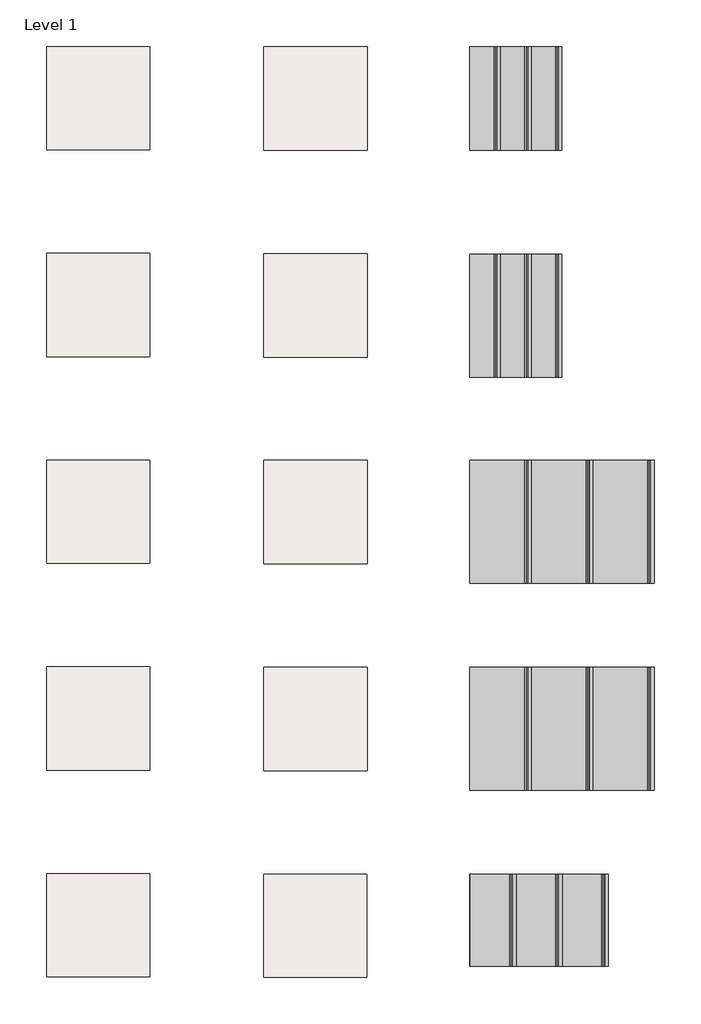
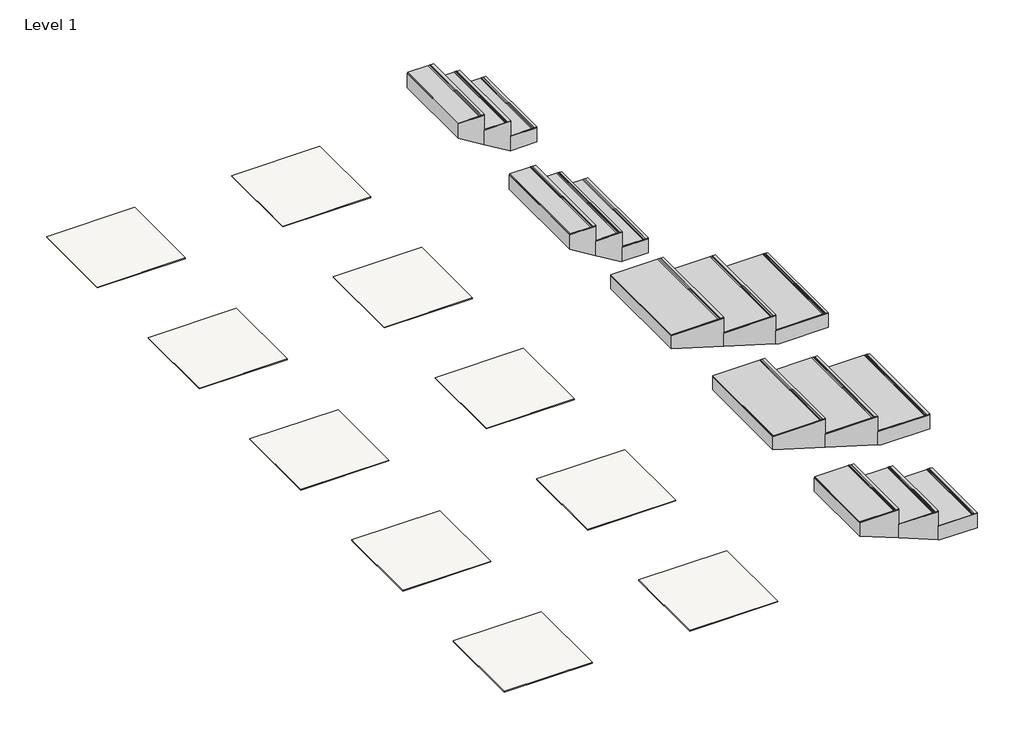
# One storey: 10 coverings, 5 stair flights.
"""IFC4 building model written with IfcOpenShell, lengths in millimetres."""

import ifcopenshell
import ifcopenshell.guid

model = None  # the IFC model being written
_history = None  # IfcOwnerHistory: only IFC2X3 demands one
_inside = {}  # id of a spatial element -> (the spatial element, [elements in it])
_under = {}  # id of a project, library or spatial element -> (it, [spatial elements below it])
_declared = {}  # id of a project -> (the project, [libraries it declares])
_typed = {}  # id of a type object -> (the type object, [elements of that type])
_made_of = {}  # id of a material, layer set ... -> (it, [elements and type objects made of it])


def new_model(schema):
    """Start an empty IFC model of exactly this schema.

    Asked for "IFC4X3", IfcOpenShell would pick the latest addendum, in which some entities
    have other attributes; the version numbers below select the first issue.
    IFC2X3 requires an IfcOwnerHistory on every rooted entity: one is made here for all.
    """
    global model, _history
    if schema == "IFC4X3":
        model = ifcopenshell.file(schema_version=(4, 3, 0, 0))
    else:
        model = ifcopenshell.file(schema=schema)
    _inside.clear()
    _under.clear()
    _declared.clear()
    _typed.clear()
    _made_of.clear()
    _history = None
    if model.schema == "IFC2X3":
        org = make("IfcOrganization", Name="unknown")
        user = make(
            "IfcPersonAndOrganization",
            ThePerson=make("IfcPerson", FamilyName="unknown"),
            TheOrganization=org,
        )
        app = make(
            "IfcApplication",
            ApplicationDeveloper=org,
            Version="unknown",
            ApplicationFullName="unknown",
            ApplicationIdentifier="unknown",
        )
        _history = make(
            "IfcOwnerHistory",
            OwningUser=user,
            OwningApplication=app,
            ChangeAction="ADDED",
            CreationDate=0,
        )
    return model


def make(cls, **values):
    """One entity of the class cls with the attributes given. An attribute that is None is left unset."""
    return model.create_entity(
        cls, **{name: value for name, value in values.items() if value is not None}
    )


def rooted(cls, **values):
    """An entity with a GlobalId (a new one), such as an element, a storey or a relation."""
    return make(cls, GlobalId=ifcopenshell.guid.new(), OwnerHistory=_history, **values)


def si_unit(unit_type, name, prefix=None):
    """IfcSIUnit, for example si_unit("LENGTHUNIT", "METRE", prefix="MILLI")."""
    return make("IfcSIUnit", UnitType=unit_type, Prefix=prefix, Name=name)


def assignment(units):
    """IfcUnitAssignment: the units of a project."""
    return None if units is None else make("IfcUnitAssignment", Units=units)


def point(xyz):
    """IfcCartesianPoint."""
    return None if xyz is None else make("IfcCartesianPoint", Coordinates=xyz)


def direction(xyz):
    """IfcDirection."""
    return None if xyz is None else make("IfcDirection", DirectionRatios=xyz)


def frame(location, z_axis=None, x_axis=None):
    """IfcAxis2Placement3D, a coordinate frame: its origin and axes. An axis left out is left unset."""
    return make(
        "IfcAxis2Placement3D",
        Location=point(location),
        Axis=direction(z_axis),
        RefDirection=direction(x_axis),
    )


def origin():
    """The frame at (0, 0, 0) with its axes left unset."""
    return frame((0.0, 0.0, 0.0))


def place(relative_to, where):
    """IfcLocalPlacement: puts the frame where relative to a parent placement (None: the world)."""
    return make(
        "IfcLocalPlacement", PlacementRelTo=relative_to, RelativePlacement=where
    )


def context(
    kind, dimensions, precision=None, world=None, true_north=None, identifier=None
):
    """IfcGeometricRepresentationContext, for example the 3D "Model" context."""
    return make(
        "IfcGeometricRepresentationContext",
        ContextIdentifier=identifier,
        ContextType=kind,
        CoordinateSpaceDimension=dimensions,
        Precision=precision,
        WorldCoordinateSystem=world,
        TrueNorth=true_north,
    )


def project(units=None, contexts=None):
    """IfcProject with its units and contexts."""
    return rooted(
        "IfcProject",
        Name="project",
        RepresentationContexts=contexts,
        UnitsInContext=assignment(units),
    )


def spatial(cls, under=None, at=None, **own):
    """A site, building, storey or space (cls), placed at a placement, below another one or the project."""
    s = rooted(cls, ObjectPlacement=at, **own)
    if under is not None:
        _under.setdefault(under.id(), (under, []))[1].append(s)
    return s


def polyline(points):
    """IfcPolyline through the points."""
    return make("IfcPolyline", Points=[point(p) for p in points])


def outline(outer, holes=None, kind="AREA"):
    """IfcArbitraryClosedProfileDef: a profile drawn as a closed curve; with holes, ...WithVoids."""
    if holes is None:
        return make("IfcArbitraryClosedProfileDef", ProfileType=kind, OuterCurve=outer)
    return make(
        "IfcArbitraryProfileDefWithVoids",
        ProfileType=kind,
        OuterCurve=outer,
        InnerCurves=holes,
    )


def extrude(swept, where, along, depth):
    """IfcExtrudedAreaSolid: the profile swept, set in the frame where, extruded along a direction by depth."""
    return make(
        "IfcExtrudedAreaSolid",
        SweptArea=swept,
        Position=where,
        ExtrudedDirection=direction(along),
        Depth=depth,
    )


def faces_of(points, faces, orient=None, outer=None):
    """IfcFace entities. A face is a list of loops; a loop is a list of indices into points, from 0.

    orient and outer hold one flag for each loop. By default every Orientation is true, the
    first loop of a face is its IfcFaceOuterBound and the others are IfcFaceBound.
    """
    made = []
    for i, loops in enumerate(faces):
        bounds = []
        for j, loop in enumerate(loops):
            is_outer = j == 0 if outer is None else outer[i][j]
            bounds.append(
                make(
                    "IfcFaceOuterBound" if is_outer else "IfcFaceBound",
                    Bound=make("IfcPolyLoop", Polygon=[points[k] for k in loop]),
                    Orientation=True if orient is None else orient[i][j],
                )
            )
        made.append(make("IfcFace", Bounds=bounds))
    return made


def faceted_brep(points, faces, orient=None, outer=None, voids=None):
    """IfcFacetedBrep: a solid bounded by flat faces; with voids (closed shells), ...WithVoids."""
    shared = [point(p) for p in points]
    hull = make("IfcClosedShell", CfsFaces=faces_of(shared, faces, orient, outer))
    if voids is None:
        return make("IfcFacetedBrep", Outer=hull)
    return make(
        "IfcFacetedBrepWithVoids",
        Outer=hull,
        Voids=[
            make(cls, CfsFaces=faces_of(shared, fs, o, b)) for cls, fs, o, b in voids
        ],
    )


def shape(context_of_items, identifier, shape_type, items):
    """IfcShapeRepresentation: the items that make up one representation, for example the "Body"."""
    return make(
        "IfcShapeRepresentation",
        ContextOfItems=context_of_items,
        RepresentationIdentifier=identifier,
        RepresentationType=shape_type,
        Items=items,
    )


def made_of(thing, what):
    """Note that an element or type object is made of a material, layer set ...; save() writes the relation."""
    if what is not None:
        _made_of.setdefault(what.id(), (what, []))[1].append(thing)
    return thing


def element(
    cls,
    number,
    at=None,
    inside=None,
    cuts=None,
    type_object=None,
    material=None,
    context=None,
    identifier="Body",
    shape_type=None,
    held_by="IfcProductDefinitionShape",
    body=None,
    shapes=None,
    **own,
):
    """One element of the class cls, such as IfcWall. Its Tag is "e" and its number.

    at: its placement. inside: the storey or other place that contains it. cuts: it is an
    opening in that element (IfcRelVoidsElement). A single representation is given by context,
    identifier, shape_type and body (its items); several are given by shapes. held_by: the class
    of the entity that holds the representations. save() writes the other relations.
    """
    e = rooted(cls, Tag="e%d" % number, ObjectPlacement=at, **own)
    if body is not None:
        shapes = [shape(context, identifier, shape_type, body)]
    if shapes is not None:
        e.Representation = make(held_by, Representations=shapes)
    if inside is not None:
        _inside.setdefault(inside.id(), (inside, []))[1].append(e)
    if cuts is not None:
        rooted(
            "IfcRelVoidsElement", RelatingBuildingElement=cuts, RelatedOpeningElement=e
        )
    if type_object is not None:
        _typed.setdefault(type_object.id(), (type_object, []))[1].append(e)
    return made_of(e, material)


def aggregate(whole, parts):
    """IfcRelAggregates: a whole, such as a stair, and the parts it consists of."""
    return rooted("IfcRelAggregates", RelatingObject=whole, RelatedObjects=parts)


def save(model, path):
    """Write the relations noted so far, then the file.

    IfcRelAggregates (storeys below a building ...), IfcRelContainedInSpatialStructure (elements
    in a storey), IfcRelDefinesByType, IfcRelAssociatesMaterial and IfcRelDeclares: one each for
    every whole, place, type object, material and project.
    """
    for whole, parts in _under.values():
        aggregate(whole, parts)
    for where, things in _inside.values():
        rooted(
            "IfcRelContainedInSpatialStructure",
            RelatedElements=things,
            RelatingStructure=where,
        )
    for kind, things in _typed.values():
        rooted("IfcRelDefinesByType", RelatedObjects=things, RelatingType=kind)
    for what, things in _made_of.values():
        rooted("IfcRelAssociatesMaterial", RelatedObjects=things, RelatingMaterial=what)
    for by, libraries in _declared.values():
        rooted("IfcRelDeclares", RelatingContext=by, RelatedDefinitions=libraries)
    model.write(path)


model = new_model("IFC4")

# Units and contexts
model_context = context("Model", 3, world=origin())
ifc_project = project(units=[si_unit("LENGTHUNIT", "METRE", prefix="MILLI")], contexts=[model_context])

# Site, building, storey
site = spatial("IfcSite", under=ifc_project)
building = spatial("IfcBuilding", under=site)
storey = spatial("IfcBuildingStorey", under=building, Name="Level 1", Elevation=0.0)

# Coverings
placement = place(None, origin())
element("IfcCovering", 1, ObjectType="REVIGRÉS-STATUARIO WHITE-DG-29,5x59,2-MATT RECT-WHITE", at=placement, inside=storey, context=model_context, shape_type="SweptSolid", body=[
    extrude(outline(polyline([(77840.9341098, 18731.1346775), (76840.9341098, 18731.1346775), (76840.9341098, 19731.1346775), (77840.9341098, 19731.1346775), (77840.9341098, 18731.1346775)])), frame((0.0, 0.0, -9.8), z_axis=(0.0, 0.0, 1.0), x_axis=(1.0, 0.0, 0.0)), (0.0, 0.0, 1.0), 9.8),
])
element("IfcCovering", 2, ObjectType="REVIGRÉS-STATUARIO WHITE-DG-29,5x59,2-POL-WHITE", at=placement, inside=storey, context=model_context, shape_type="SweptSolid", body=[
    extrude(outline(polyline([(79941.0591098, 18727.0096775), (78940.8091098, 18727.0096775), (78940.8091098, 19727.0096775), (79941.0591098, 19727.0096775), (79941.0591098, 18727.0096775)])), frame((0.0, 0.0, -9.8), z_axis=(0.0, 0.0, 1.0), x_axis=(1.0, 0.0, 0.0)), (0.0, 0.0, 1.0), 9.8),
])
element("IfcCovering", 3, ObjectType="REVIGRÉS-STATUARIO WHITE-DG-59,2x59,2-MATT RECT-WHITE", at=placement, inside=storey, context=model_context, shape_type="SweptSolid", body=[
    extrude(outline(polyline([(77840.9341098, 14731.1346775), (76840.9341098, 14731.1346775), (76840.9341098, 15731.1346775), (77840.9341098, 15731.1346775), (77840.9341098, 14731.1346775)])), frame((0.0, 0.0, -9.8), z_axis=(0.0, 0.0, 1.0), x_axis=(1.0, 0.0, 0.0)), (0.0, 0.0, 1.0), 9.8),
])
element("IfcCovering", 4, ObjectType="REVIGRÉS-STATUARIO WHITE-DG-59,2x59,2-POL-WHITE", at=placement, inside=storey, context=model_context, shape_type="SweptSolid", body=[
    extrude(outline(polyline([(79941.0591098, 14727.0096775), (78940.8091098, 14727.0096775), (78940.8091098, 15727.0096775), (79941.0591098, 15727.0096775), (79941.0591098, 14727.0096775)])), frame((0.0, 0.0, -9.8), z_axis=(0.0, 0.0, 1.0), x_axis=(1.0, 0.0, 0.0)), (0.0, 0.0, 1.0), 9.8),
])
element("IfcCovering", 5, ObjectType="REVIGRÉS-STATUARIO WHITE-DG-59,2x118,6-MATT RECT-WHITE", at=placement, inside=storey, context=model_context, shape_type="SweptSolid", body=[
    extrude(outline(polyline([(77840.9341098, 12731.1346775), (76840.9341098, 12731.1346775), (76840.9341098, 13731.1346775), (77840.9341098, 13731.1346775), (77840.9341098, 12731.1346775)])), frame((0.0, 0.0, -9.8), z_axis=(0.0, 0.0, 1.0), x_axis=(1.0, 0.0, 0.0)), (0.0, 0.0, 1.0), 9.8),
])
element("IfcCovering", 6, ObjectType="REVIGRÉS-STATUARIO WHITE-DG-59,2x118,6-POL-WHITE", at=placement, inside=storey, context=model_context, shape_type="SweptSolid", body=[
    extrude(outline(polyline([(79940.7341098, 12726.6846775), (78941.1341098, 12726.6846775), (78941.1341098, 13726.6846775), (79940.7341098, 13726.6846775), (79940.7341098, 12726.6846775)])), frame((0.0, 0.0, -9.8), z_axis=(0.0, 0.0, 1.0), x_axis=(1.0, 0.0, 0.0)), (0.0, 0.0, 1.0), 9.8),
])
element("IfcCovering", 7, ObjectType="REVIGRÉS-STATUARIO WHITE-DG-44,35x88,9-MATT RECT-WHITE", at=placement, inside=storey, context=model_context, shape_type="SweptSolid", body=[
    extrude(outline(polyline([(77840.9341098, 10731.1346775), (76840.9341098, 10731.1346775), (76840.9341098, 11731.1346775), (77840.9341098, 11731.1346775), (77840.9341098, 10731.1346775)])), frame((0.0, 0.0, -10.5), z_axis=(0.0, 0.0, 1.0), x_axis=(1.0, 0.0, 0.0)), (0.0, 0.0, 1.0), 10.5),
])
element("IfcCovering", 8, ObjectType="REVIGRÉS-STATUARIO WHITE-DG-44,35x88,9-POL-WHITE", at=placement, inside=storey, context=model_context, shape_type="SweptSolid", body=[
    extrude(outline(polyline([(79940.6091098, 10726.5596775), (78941.2591098, 10726.5596775), (78941.2591098, 11726.5596775), (79940.6091098, 11726.5596775), (79940.6091098, 10726.5596775)])), frame((0.0, 0.0, -10.5), z_axis=(0.0, 0.0, 1.0), x_axis=(1.0, 0.0, 0.0)), (0.0, 0.0, 1.0), 10.5),
])
element("IfcCovering", 9, ObjectType="REVIGRÉS-STATUARIO WHITE-DG-29,5x118,6-MATT RECT-WHITE", at=placement, inside=storey, context=model_context, shape_type="SweptSolid", body=[
    extrude(outline(polyline([(77840.9341098, 16731.1346775), (76840.9341098, 16731.1346775), (76840.9341098, 17731.1346775), (77840.9341098, 17731.1346775), (77840.9341098, 16731.1346775)])), frame((0.0, 0.0, -9.8), z_axis=(0.0, 0.0, 1.0), x_axis=(1.0, 0.0, 0.0)), (0.0, 0.0, 1.0), 9.8),
])
element("IfcCovering", 10, ObjectType="REVIGRÉS-STATUARIO WHITE-DG-29,5x118,6-POL-WHITE", at=placement, inside=storey, context=model_context, shape_type="SweptSolid", body=[
    extrude(outline(polyline([(79941.0591098, 16727.0096775), (78940.8091098, 16727.0096775), (78940.8091098, 17727.0096775), (79941.0591098, 17727.0096775), (79941.0591098, 16727.0096775)])), frame((0.0, 0.0, -9.8), z_axis=(0.0, 0.0, 1.0), x_axis=(1.0, 0.0, 0.0)), (0.0, 0.0, 1.0), 9.8),
])

# Stair flights
element("IfcStairFlight", 11, ObjectType="REVIGRÉS-STATUARIO WHITE-DG-29,5X59,2", at=placement, inside=storey, context=model_context, shape_type="SolidModel", body=[
    faceted_brep([(81528.9341098, 18727.0096775, 169.4941176), (81825.9341098, 18727.0096775, 169.4941176), (81825.9341098, 19727.0096775, 169.4941176), (81528.9341098, 19727.0096775, 169.4941176), (81528.9341098, 18727.0096775, 0.0), (81825.9341098, 18727.0096775, 0.0), (81825.9341099, 19727.0096775, 0.0), (81528.9341098, 19727.0096775, 0.0), (81231.9341098, 18727.0096775, 348.7882353), (81528.9341098, 18727.0096775, 348.7882353), (81528.9341098, 19727.0096775, 348.7882353), (81231.9341098, 19727.0096775, 348.7882353), (81231.9341098, 18727.0096775, 173.5747353), (81519.4599755, 18727.0096775, 0.0), (81519.4599755, 19727.0096775, 0.0), (81231.9341098, 19727.0096775, 173.5747353), (80934.9341098, 18727.0096775, 528.0823529), (81231.9341098, 18727.0096775, 528.0823529), (81231.9341098, 19727.0096775, 528.0823529), (80934.9341098, 19727.0096775, 528.0823529), (80934.9341098, 18727.0096775, 352.8688529), (80934.9341098, 19727.0096775, 352.8688529)], [[[0, 1, 2, 3]], [[1, 0, 4, 5]], [[2, 1, 5, 6]], [[3, 2, 6, 7]], [[8, 9, 10, 11]], [[4, 0, 9, 8, 12, 13]], [[0, 3, 10, 9]], [[3, 7, 14, 15, 11, 10]], [[16, 17, 18, 19]], [[17, 16, 20, 12, 8]], [[8, 11, 18, 17]], [[19, 18, 11, 15, 21]], [[16, 19, 21, 20]], [[5, 4, 13, 14, 7, 6]], [[14, 13, 12, 20, 21, 15]]]),
    extrude(outline(polyline([(179.2941176, 81795.9341098), (178.2941176, 81795.9341098), (178.2941176, 81790.9341098), (179.2941176, 81790.9341098), (179.2941176, 81780.9341098), (178.2941176, 81780.9341098), (178.2941176, 81775.9341098), (179.2941176, 81775.9341098), (179.2941176, 81765.9341098), (178.2941176, 81765.9341098), (178.2941176, 81760.9341098), (179.2941176, 81760.9341098), (179.2941176, 81530.9341098), (170.7941176, 81530.9341098), (170.7941176, 81825.9341098), (179.2941176, 81825.9341098), (179.2941176, 81795.9341098)])), frame((0.0, 18727.0096775, 0.0), z_axis=(0.0, 1.0, 0.0), x_axis=(0.0, 0.0, 1.0)), (0.0, 0.0, 1.0), 1000.0),
    extrude(outline(polyline([(358.5882353, 81498.9341098), (357.5882353, 81498.9341098), (357.5882353, 81493.9341098), (358.5882353, 81493.9341098), (358.5882353, 81483.9341098), (357.5882353, 81483.9341098), (357.5882353, 81478.9341098), (358.5882353, 81478.9341098), (358.5882353, 81468.9341098), (357.5882353, 81468.9341098), (357.5882353, 81463.9341098), (358.5882353, 81463.9341098), (358.5882353, 81233.9341098), (350.0882353, 81233.9341098), (350.0882353, 81528.9341098), (358.5882353, 81528.9341098), (358.5882353, 81498.9341098)])), frame((0.0, 18727.0096775, 0.0), z_axis=(0.0, 1.0, 0.0), x_axis=(0.0, 0.0, 1.0)), (0.0, 0.0, 1.0), 1000.0),
    extrude(outline(polyline([(537.8823529, 81201.9341098), (536.8823529, 81201.9341098), (536.8823529, 81196.9341098), (537.8823529, 81196.9341098), (537.8823529, 81186.9341098), (536.8823529, 81186.9341098), (536.8823529, 81181.9341098), (537.8823529, 81181.9341098), (537.8823529, 81171.9341098), (536.8823529, 81171.9341098), (536.8823529, 81166.9341098), (537.8823529, 81166.9341098), (537.8823529, 80936.9341098), (529.3823529, 80936.9341098), (529.3823529, 81231.9341098), (537.8823529, 81231.9341098), (537.8823529, 81201.9341098)])), frame((0.0, 18727.0096775, 0.0), z_axis=(0.0, 1.0, 0.0), x_axis=(0.0, 0.0, 1.0)), (0.0, 0.0, 1.0), 1000.0),
])
element("IfcStairFlight", 12, ObjectType="REVIGRÉS-STATUARIO WHITE-DG-29,5X118,6", at=placement, inside=storey, context=model_context, shape_type="SolidModel", body=[
    faceted_brep([(81528.9341098, 16533.0096775, 169.4941176), (81825.9341098, 16533.0096775, 169.4941176), (81825.9341099, 17721.0096775, 169.4941176), (81528.9341098, 17721.0096775, 169.4941176), (81528.9341098, 16533.0096775, 0.0), (81825.9341098, 16533.0096775, 0.0), (81825.9341098, 17721.0096775, 0.0), (81528.9341098, 17721.0096775, 0.0), (81231.9341098, 16533.0096775, 348.7882353), (81528.9341098, 16533.0096775, 348.7882353), (81528.9341098, 17721.0096775, 348.7882353), (81231.9341098, 17721.0096775, 348.7882353), (81231.9341098, 16533.0096775, 173.5747353), (81519.4599755, 16533.0096775, 0.0), (81519.4599755, 17721.0096775, 0.0), (81231.9341098, 17721.0096775, 173.5747353), (80934.9341098, 16533.0096775, 528.0823529), (81231.9341098, 16533.0096775, 528.0823529), (81231.9341098, 17721.0096775, 528.0823529), (80934.9341098, 17721.0096775, 528.0823529), (80934.9341098, 16533.0096775, 352.8688529), (80934.9341098, 17721.0096775, 352.8688529)], [[[0, 1, 2, 3]], [[1, 0, 4, 5]], [[2, 1, 5, 6]], [[3, 2, 6, 7]], [[8, 9, 10, 11]], [[4, 0, 9, 8, 12, 13]], [[0, 3, 10, 9]], [[3, 7, 14, 15, 11, 10]], [[16, 17, 18, 19]], [[17, 16, 20, 12, 8]], [[8, 11, 18, 17]], [[19, 18, 11, 15, 21]], [[16, 19, 21, 20]], [[5, 4, 13, 14, 7, 6]], [[14, 13, 12, 20, 21, 15]]]),
    extrude(outline(polyline([(179.2941176, 81795.9341098), (178.2941176, 81795.9341098), (178.2941176, 81790.9341098), (179.2941176, 81790.9341098), (179.2941176, 81780.9341098), (178.2941176, 81780.9341098), (178.2941176, 81775.9341098), (179.2941176, 81775.9341098), (179.2941176, 81765.9341098), (178.2941176, 81765.9341098), (178.2941176, 81760.9341098), (179.2941176, 81760.9341098), (179.2941176, 81530.9341098), (169.4941176, 81530.9341098), (169.4941176, 81825.9341098), (179.2941176, 81825.9341098), (179.2941176, 81795.9341098)])), frame((0.0, 16533.0096775, 0.0), z_axis=(0.0, 1.0, 0.0), x_axis=(0.0, 0.0, 1.0)), (0.0, 0.0, 1.0), 1188.0),
    extrude(outline(polyline([(358.5882353, 81498.9341098), (357.5882353, 81498.9341098), (357.5882353, 81493.9341098), (358.5882353, 81493.9341098), (358.5882353, 81483.9341098), (357.5882353, 81483.9341098), (357.5882353, 81478.9341098), (358.5882353, 81478.9341098), (358.5882353, 81468.9341098), (357.5882353, 81468.9341098), (357.5882353, 81463.9341098), (358.5882353, 81463.9341098), (358.5882353, 81233.9341098), (348.7882353, 81233.9341098), (348.7882353, 81528.9341098), (358.5882353, 81528.9341098), (358.5882353, 81498.9341098)])), frame((0.0, 16533.0096775, 0.0), z_axis=(0.0, 1.0, 0.0), x_axis=(0.0, 0.0, 1.0)), (0.0, 0.0, 1.0), 1188.0),
    extrude(outline(polyline([(537.8823529, 81201.9341098), (536.8823529, 81201.9341098), (536.8823529, 81196.9341098), (537.8823529, 81196.9341098), (537.8823529, 81186.9341098), (536.8823529, 81186.9341098), (536.8823529, 81181.9341098), (537.8823529, 81181.9341098), (537.8823529, 81171.9341098), (536.8823529, 81171.9341098), (536.8823529, 81166.9341098), (537.8823529, 81166.9341098), (537.8823529, 80936.9341098), (528.0823529, 80936.9341098), (528.0823529, 81231.9341098), (537.8823529, 81231.9341098), (537.8823529, 81201.9341098)])), frame((0.0, 16533.0096775, 0.0), z_axis=(0.0, 1.0, 0.0), x_axis=(0.0, 0.0, 1.0)), (0.0, 0.0, 1.0), 1188.0),
])
element("IfcStairFlight", 13, ObjectType="REVIGRÉS-STATUARIO WHITE-DG-44.35X88.9", at=placement, inside=storey, context=model_context, shape_type="SolidModel", body=[
    faceted_brep([(81827.4341098, 10835.5596775, 169.4941176), (82272.9341098, 10835.5596775, 169.4941176), (82272.9341098, 11726.5596775, 169.4941176), (81827.4341098, 11726.5596775, 169.4941176), (81827.4341098, 10835.5596775, 7.8019951), (81846.8200712, 10835.5596775, 0.0), (82272.9341098, 10835.5596775, 0.0), (82272.9341098, 11726.5596775, 0.0), (81846.8200712, 11726.5596775, 0.0), (81827.4341098, 11726.5596775, 7.8019951), (81381.9341098, 10835.5596775, 348.7882353), (81827.4341098, 10835.5596775, 348.7882353), (81827.4341098, 11726.5596775, 348.7882353), (81381.9341098, 11726.5596775, 348.7882353), (81381.9341098, 10835.5596775, 187.0961128), (81381.9341098, 11726.5596775, 187.0961128), (80936.4341098, 10835.5596775, 528.0823529), (81381.9341098, 10835.5596775, 528.0823529), (81381.9341098, 11726.5596775, 528.0823529), (80936.4341098, 11726.5596775, 528.0823529), (80936.4341098, 10835.5596775, 366.3902304), (80936.4341098, 11726.5596775, 366.3902304)], [[[0, 1, 2, 3]], [[1, 0, 4, 5, 6]], [[2, 1, 6, 7]], [[3, 2, 7, 8, 9]], [[10, 11, 12, 13]], [[11, 10, 14, 4, 0]], [[0, 3, 12, 11]], [[13, 12, 3, 9, 15]], [[16, 17, 18, 19]], [[17, 16, 20, 14, 10]], [[10, 13, 18, 17]], [[19, 18, 13, 15, 21]], [[16, 19, 21, 20]], [[7, 6, 5, 8]], [[8, 5, 4, 14, 20, 21, 15, 9]]]),
    extrude(outline(polyline([(179.2941176, 82242.9341098), (178.2941176, 82242.9341098), (178.2941176, 82237.9341098), (179.2941176, 82237.9341098), (179.2941176, 82227.9341098), (178.2941176, 82227.9341098), (178.2941176, 82222.9341098), (179.2941176, 82222.9341098), (179.2941176, 82212.9341098), (178.2941176, 82212.9341098), (178.2941176, 82207.9341098), (179.2941176, 82207.9341098), (179.2941176, 81829.4341098), (168.7941176, 81829.4341098), (168.7941176, 82272.9341098), (179.2941176, 82272.9341098), (179.2941176, 82242.9341098)])), frame((0.0, 10835.5596775, 0.0), z_axis=(0.0, 1.0, 0.0), x_axis=(0.0, 0.0, 1.0)), (0.0, 0.0, 1.0), 891.0),
    extrude(outline(polyline([(358.5882353, 81797.4341098), (357.5882353, 81797.4341098), (357.5882353, 81792.4341098), (358.5882353, 81792.4341098), (358.5882353, 81782.4341098), (357.5882353, 81782.4341098), (357.5882353, 81777.4341098), (358.5882353, 81777.4341098), (358.5882353, 81767.4341098), (357.5882353, 81767.4341098), (357.5882353, 81762.4341098), (358.5882353, 81762.4341098), (358.5882353, 81383.9341098), (348.0882353, 81383.9341098), (348.0882353, 81827.4341098), (358.5882353, 81827.4341098), (358.5882353, 81797.4341098)])), frame((0.0, 10835.5596775, 0.0), z_axis=(0.0, 1.0, 0.0), x_axis=(0.0, 0.0, 1.0)), (0.0, 0.0, 1.0), 891.0),
    extrude(outline(polyline([(537.8823529, 81351.9341098), (536.8823529, 81351.9341098), (536.8823529, 81346.9341098), (537.8823529, 81346.9341098), (537.8823529, 81336.9341098), (536.8823529, 81336.9341098), (536.8823529, 81331.9341098), (537.8823529, 81331.9341098), (537.8823529, 81321.9341098), (536.8823529, 81321.9341098), (536.8823529, 81316.9341098), (537.8823529, 81316.9341098), (537.8823529, 80938.4341098), (527.3823529, 80938.4341098), (527.3823529, 81381.9341098), (537.8823529, 81381.9341098), (537.8823529, 81351.9341098)])), frame((0.0, 10835.5596775, 0.0), z_axis=(0.0, 1.0, 0.0), x_axis=(0.0, 0.0, 1.0)), (0.0, 0.0, 1.0), 891.0),
])
element("IfcStairFlight", 14, ObjectType="REVIGRÉS-STATUARIO WHITE-DG-59,2X59,2", at=placement, inside=storey, context=model_context, shape_type="SolidModel", body=[
    faceted_brep([(82122.9341098, 14539.0096775, 168.7941176), (82716.9341098, 14539.0096775, 168.7941176), (82716.9341098, 15727.0096775, 168.7941176), (82122.9341098, 15727.0096775, 168.7941176), (82122.9341098, 14539.0096775, 12.1099045), (82163.0541281, 14539.0096775, 0.0), (82716.9341098, 14539.0096775, 0.0), (82716.9341098, 15727.0096775, 0.0), (82163.0541281, 15727.0096775, 0.0), (82122.9341098, 15727.0096775, 12.1099045), (81528.9341098, 14539.0096775, 348.0882353), (82122.9341098, 14539.0096775, 348.0882353), (82122.9341098, 15727.0096775, 348.0882353), (81528.9341098, 15727.0096775, 348.0882353), (81528.9341098, 14539.0096775, 191.4040222), (81528.9341098, 15727.0096775, 191.4040222), (80934.9341098, 14539.0096775, 527.3823529), (81528.9341098, 14539.0096775, 527.3823529), (81528.9341098, 15727.0096775, 527.3823529), (80934.9341098, 15727.0096775, 527.3823529), (80934.9341098, 14539.0096775, 370.6981398), (80934.9341098, 15727.0096775, 370.6981398)], [[[0, 1, 2, 3]], [[1, 0, 4, 5, 6]], [[2, 1, 6, 7]], [[3, 2, 7, 8, 9]], [[10, 11, 12, 13]], [[11, 10, 14, 4, 0]], [[0, 3, 12, 11]], [[13, 12, 3, 9, 15]], [[16, 17, 18, 19]], [[17, 16, 20, 14, 10]], [[10, 13, 18, 17]], [[19, 18, 13, 15, 21]], [[16, 19, 21, 20]], [[7, 6, 5, 8]], [[8, 5, 4, 14, 20, 21, 15, 9]]]),
    extrude(outline(polyline([(179.2941176, 82686.9341098), (178.2941176, 82686.9341098), (178.2941176, 82681.9341098), (179.2941176, 82681.9341098), (179.2941176, 82671.9341098), (178.2941176, 82671.9341098), (178.2941176, 82666.9341098), (179.2941176, 82666.9341098), (179.2941176, 82656.9341098), (178.2941176, 82656.9341098), (178.2941176, 82651.9341098), (179.2941176, 82651.9341098), (179.2941176, 82124.9341098), (168.7941176, 82124.9341098), (168.7941176, 82716.9341098), (179.2941176, 82716.9341098), (179.2941176, 82686.9341098)])), frame((0.0, 14539.0096775, 0.0), z_axis=(0.0, 1.0, 0.0), x_axis=(0.0, 0.0, 1.0)), (0.0, 0.0, 1.0), 1188.0),
    extrude(outline(polyline([(358.5882353, 82092.9341098), (357.5882353, 82092.9341098), (357.5882353, 82087.9341098), (358.5882353, 82087.9341098), (358.5882353, 82077.9341098), (357.5882353, 82077.9341098), (357.5882353, 82072.9341098), (358.5882353, 82072.9341098), (358.5882353, 82062.9341098), (357.5882353, 82062.9341098), (357.5882353, 82057.9341098), (358.5882353, 82057.9341098), (358.5882353, 81530.9341098), (348.0882353, 81530.9341098), (348.0882353, 82122.9341098), (358.5882353, 82122.9341098), (358.5882353, 82092.9341098)])), frame((0.0, 14539.0096775, 0.0), z_axis=(0.0, 1.0, 0.0), x_axis=(0.0, 0.0, 1.0)), (0.0, 0.0, 1.0), 1188.0),
    extrude(outline(polyline([(537.8823529, 81498.9341098), (536.8823529, 81498.9341098), (536.8823529, 81493.9341098), (537.8823529, 81493.9341098), (537.8823529, 81483.9341098), (536.8823529, 81483.9341098), (536.8823529, 81478.9341098), (537.8823529, 81478.9341098), (537.8823529, 81468.9341098), (536.8823529, 81468.9341098), (536.8823529, 81463.9341098), (537.8823529, 81463.9341098), (537.8823529, 80936.9341098), (527.3823529, 80936.9341098), (527.3823529, 81528.9341098), (537.8823529, 81528.9341098), (537.8823529, 81498.9341098)])), frame((0.0, 14539.0096775, 0.0), z_axis=(0.0, 1.0, 0.0), x_axis=(0.0, 0.0, 1.0)), (0.0, 0.0, 1.0), 1188.0),
])
element("IfcStairFlight", 15, ObjectType="REVIGRÉS-STATUARIO WHITE-DG-59,2X118,6", at=placement, inside=storey, context=model_context, shape_type="SolidModel", body=[
    faceted_brep([(82122.9341098, 12538.6846775, 168.7941176), (82716.9341098, 12538.6846775, 168.7941176), (82716.9341098, 13726.6846775, 168.7941176), (82122.9341098, 13726.6846775, 168.7941176), (82122.9341098, 12538.6846775, 12.1099045), (82163.0541281, 12538.6846775, 0.0), (82716.9341098, 12538.6846775, 0.0), (82716.9341098, 13726.6846775, 0.0), (82163.0541281, 13726.6846775, 0.0), (82122.9341098, 13726.6846775, 12.1099045), (81528.9341098, 12538.6846775, 348.0882353), (82122.9341098, 12538.6846775, 348.0882353), (82122.9341098, 13726.6846775, 348.0882353), (81528.9341098, 13726.6846775, 348.0882353), (81528.9341098, 12538.6846775, 191.4040222), (81528.9341098, 13726.6846775, 191.4040222), (80934.9341098, 12538.6846775, 527.3823529), (81528.9341098, 12538.6846775, 527.3823529), (81528.9341098, 13726.6846775, 527.3823529), (80934.9341098, 13726.6846775, 527.3823529), (80934.9341098, 12538.6846775, 370.6981398), (80934.9341098, 13726.6846775, 370.6981398)], [[[0, 1, 2, 3]], [[1, 0, 4, 5, 6]], [[2, 1, 6, 7]], [[3, 2, 7, 8, 9]], [[10, 11, 12, 13]], [[11, 10, 14, 4, 0]], [[0, 3, 12, 11]], [[13, 12, 3, 9, 15]], [[16, 17, 18, 19]], [[17, 16, 20, 14, 10]], [[10, 13, 18, 17]], [[19, 18, 13, 15, 21]], [[16, 19, 21, 20]], [[7, 6, 5, 8]], [[8, 5, 4, 14, 20, 21, 15, 9]]]),
    extrude(outline(polyline([(179.2941176, 82686.9341098), (178.2941176, 82686.9341098), (178.2941176, 82681.9341098), (179.2941176, 82681.9341098), (179.2941176, 82671.9341098), (178.2941176, 82671.9341098), (178.2941176, 82666.9341098), (179.2941176, 82666.9341098), (179.2941176, 82656.9341098), (178.2941176, 82656.9341098), (178.2941176, 82651.9341098), (179.2941176, 82651.9341098), (179.2941176, 82124.9341098), (169.4941176, 82124.9341098), (169.4941176, 82716.9341098), (179.2941176, 82716.9341098), (179.2941176, 82686.9341098)])), frame((0.0, 12538.6846775, 0.0), z_axis=(0.0, 1.0, 0.0), x_axis=(0.0, 0.0, 1.0)), (0.0, 0.0, 1.0), 1188.0),
    extrude(outline(polyline([(358.5882353, 82092.9341098), (357.5882353, 82092.9341098), (357.5882353, 82087.9341098), (358.5882353, 82087.9341098), (358.5882353, 82077.9341098), (357.5882353, 82077.9341098), (357.5882353, 82072.9341098), (358.5882353, 82072.9341098), (358.5882353, 82062.9341098), (357.5882353, 82062.9341098), (357.5882353, 82057.9341098), (358.5882353, 82057.9341098), (358.5882353, 81530.9341098), (348.7882353, 81530.9341098), (348.7882353, 82122.9341098), (358.5882353, 82122.9341098), (358.5882353, 82092.9341098)])), frame((0.0, 12538.6846775, 0.0), z_axis=(0.0, 1.0, 0.0), x_axis=(0.0, 0.0, 1.0)), (0.0, 0.0, 1.0), 1188.0),
    extrude(outline(polyline([(537.8823529, 81498.9341098), (536.8823529, 81498.9341098), (536.8823529, 81493.9341098), (537.8823529, 81493.9341098), (537.8823529, 81483.9341098), (536.8823529, 81483.9341098), (536.8823529, 81478.9341098), (537.8823529, 81478.9341098), (537.8823529, 81468.9341098), (536.8823529, 81468.9341098), (536.8823529, 81463.9341098), (537.8823529, 81463.9341098), (537.8823529, 80936.9341098), (528.0823529, 80936.9341098), (528.0823529, 81528.9341098), (537.8823529, 81528.9341098), (537.8823529, 81498.9341098)])), frame((0.0, 12538.6846775, 0.0), z_axis=(0.0, 1.0, 0.0), x_axis=(0.0, 0.0, 1.0)), (0.0, 0.0, 1.0), 1188.0),
])

save(model, "model.ifc")
